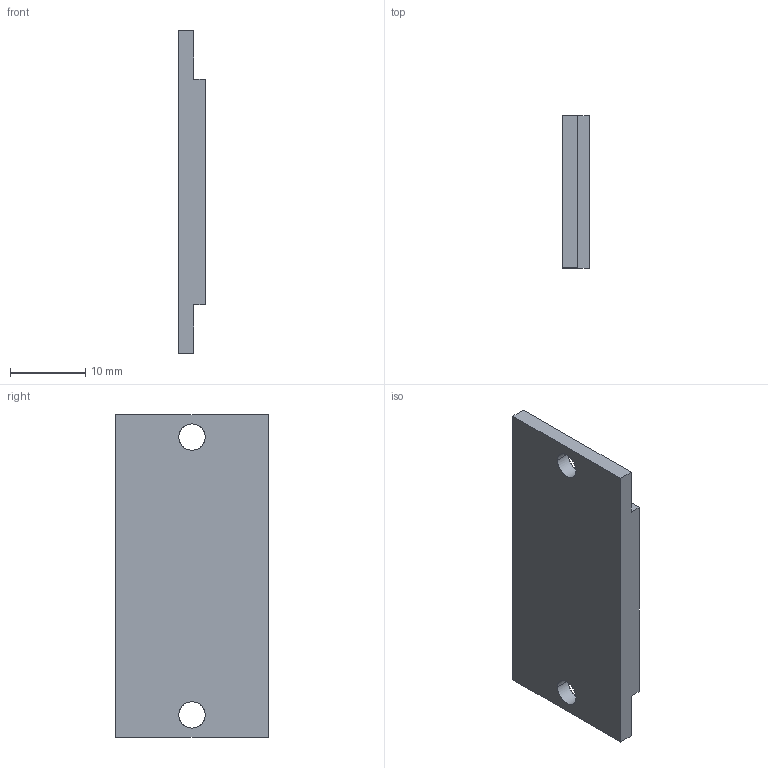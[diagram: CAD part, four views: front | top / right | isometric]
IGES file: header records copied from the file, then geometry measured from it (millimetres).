
Start section: Comment
Global section: file name: FTDR 017A027.igs; native system:  By UGS Corp.; preprocessor: XPlus GENERIC/IGES 3.0; author: Author; organization: Title; date: 20110112.111554; units: millimetre
Bounding box: 3.5 x 20.3 x 43 mm (x, y, z)
Surface area: 2156.3 mm2 (no closed solid volume)
Topology: 0 solids, 0 shells, 19 faces, 96 edges, 96 vertices
Faces by surface type: bspline 19
